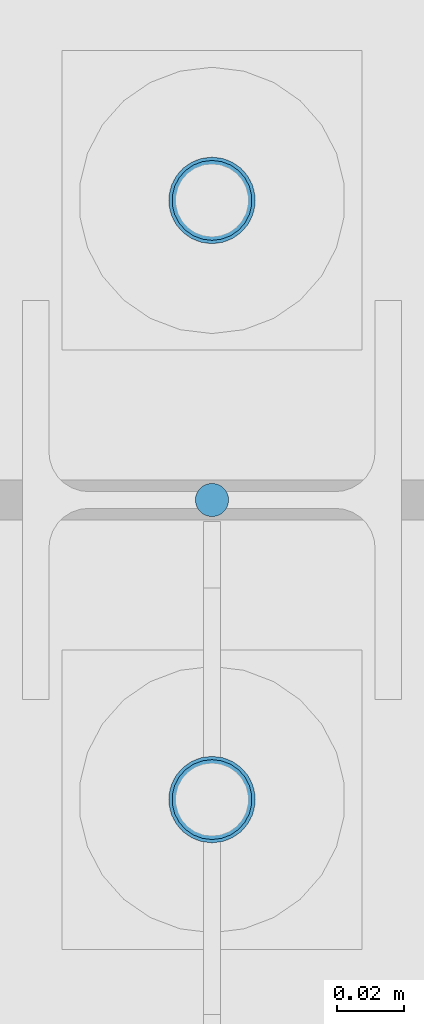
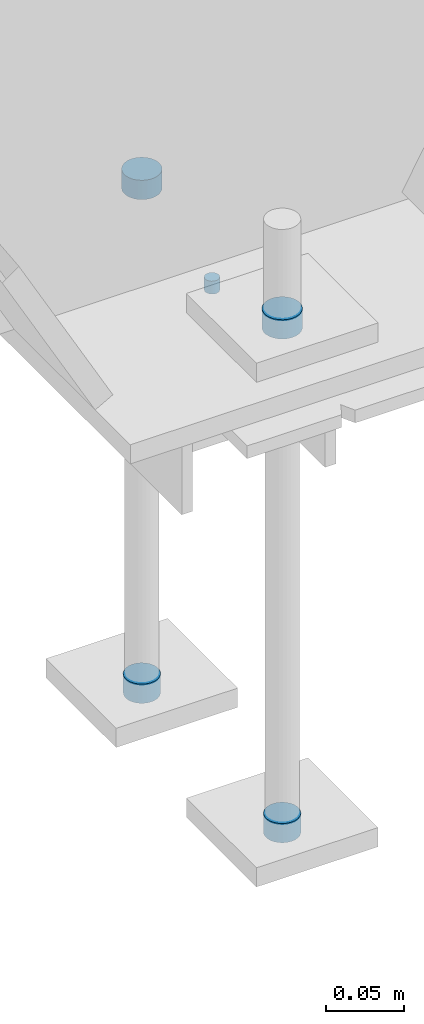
# One storey, part 106 of 123: 5 mechanical fasteners, 1 element without a shape of its own.
"""IFC2X3 building model written with IfcOpenShell, lengths in millimetres."""

from ifc_helpers import new_model, si_unit, frame, origin_with_axes, origin_2d_with_axis, place, context, subcontext, project, spatial, circle, extrude, source, transform, mapped, material, type_object, element, aggregate, save


model = new_model("IFC2X3")

# Units and contexts
model_context = context("Model", 3, precision=1e-05, world=origin_with_axes())
body_context = subcontext(model_context, "Body", "Model", "MODEL_VIEW")
ifc_project = project(units=[si_unit("LENGTHUNIT", "METRE", prefix="MILLI"), si_unit("AREAUNIT", "SQUARE_METRE"), si_unit("VOLUMEUNIT", "CUBIC_METRE"), si_unit("MASSUNIT", "GRAM", prefix="KILO"), si_unit("TIMEUNIT", "SECOND"), si_unit("PLANEANGLEUNIT", "RADIAN"), si_unit("SOLIDANGLEUNIT", "STERADIAN"), si_unit("THERMODYNAMICTEMPERATUREUNIT", "DEGREE_CELSIUS"), si_unit("LUMINOUSINTENSITYUNIT", "LUMEN")], contexts=[model_context])

# Site, building, storey
site_placement = place(None, origin_with_axes())
site = spatial("IfcSite", under=ifc_project, at=site_placement, Name="Undefined", CompositionType="ELEMENT")
building_placement = place(site_placement, origin_with_axes())
building = spatial("IfcBuilding", under=site, at=building_placement, Name="Undefined", CompositionType="ELEMENT")
storey_placement = place(building_placement, origin_with_axes())
storey = spatial("IfcBuildingStorey", under=building, at=storey_placement, Name="Undefined", CompositionType="ELEMENT", Elevation=0.0)

# Assembly, mechanical fasteners
assembly_placement = place(storey_placement, origin_with_axes())
assembly = element("IfcElementAssembly", 1, at=assembly_placement, inside=storey, Name="Steel Assembly", AssemblyPlace="NOTDEFINED", PredefinedType="RIGID_FRAME")
ifc_material = material(Name="6.8")
discrete_accessory_type = type_object("IfcDiscreteAccessoryType", Name="Bolt assembly")
shared_shape_1 = source(origin_with_axes(), body_context, "Body", "SweptSolid", [
    extrude(circle(Radius=13.0, at=origin_2d_with_axis()), frame((0.0, -15.0, 0.0), z_axis=(0.0, 1.0, 0.0), x_axis=(1.0, 0.0, 0.0)), (0.0, 0.0, 1.0), 15.1),
])
mechanical_fastener_1_placement = place(assembly_placement, frame((28880.0, -90.0028495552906, -235.0), z_axis=(1.0, 0.0, 0.0), x_axis=(0.0, -1.0, 0.0)))
mechanical_fastener_1 = element("IfcMechanicalFastener", 2, at=mechanical_fastener_1_placement, type_object=discrete_accessory_type, material=ifc_material, Name="Bolt assembly", NominalDiameter=24.0, NominalLength=15.0, context=body_context, shape_type="MappedRepresentation", body=[
    mapped(shared_shape_1, transform((0.0, 0.0, 0.0))),
])
mechanical_fastener_2_placement = place(assembly_placement, frame((28880.0, 89.9971504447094, -235.0), z_axis=(1.0, 0.0, 0.0), x_axis=(0.0, -1.0, 0.0)))
mechanical_fastener_2 = element("IfcMechanicalFastener", 3, at=mechanical_fastener_2_placement, type_object=discrete_accessory_type, material=ifc_material, Name="Bolt assembly", NominalDiameter=24.0, NominalLength=15.0, context=body_context, shape_type="MappedRepresentation", body=[
    mapped(shared_shape_1, transform((0.0, 0.0, 0.0))),
])
shared_shape_2 = source(origin_with_axes(), body_context, "Body", "SweptSolid", [
    extrude(circle(Radius=12.0, at=origin_2d_with_axis()), frame((0.0, -15.0, 0.0), z_axis=(0.0, 1.0, 0.0), x_axis=(1.0, 0.0, 0.0)), (0.0, 0.0, 1.0), 15.1),
])
mechanical_fastener_3_placement = place(assembly_placement, frame((28880.0, -90.0028495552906, -630.0), z_axis=(1.0, 0.0, 0.0), x_axis=(0.0, -1.0, 0.0)))
mechanical_fastener_3 = element("IfcMechanicalFastener", 4, at=mechanical_fastener_3_placement, type_object=discrete_accessory_type, material=ifc_material, Name="Bolt assembly", NominalDiameter=22.0, NominalLength=15.0, context=body_context, shape_type="MappedRepresentation", body=[
    mapped(shared_shape_2, transform((0.0, 0.0, 0.0))),
])
mechanical_fastener_4_placement = place(assembly_placement, frame((28880.0, 89.9971504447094, -630.0), z_axis=(1.0, 0.0, 0.0), x_axis=(0.0, -1.0, 0.0)))
mechanical_fastener_4 = element("IfcMechanicalFastener", 5, at=mechanical_fastener_4_placement, type_object=discrete_accessory_type, material=ifc_material, Name="Bolt assembly", NominalDiameter=22.0, NominalLength=15.0, context=body_context, shape_type="MappedRepresentation", body=[
    mapped(shared_shape_2, transform((0.0, 0.0, 0.0))),
])
shared_shape_3 = source(origin_with_axes(), body_context, "Body", "SweptSolid", [
    extrude(circle(Radius=5.0, at=origin_2d_with_axis()), frame((0.0, 0.0, 0.0), z_axis=(0.0, 1.0, 0.0), x_axis=(1.0, 0.0, 0.0)), (0.0, 0.0, 1.0), 10.1),
])
mechanical_fastener_5_placement = place(assembly_placement, frame((28880.0, 7.34107743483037e-08, -250.0), z_axis=(0.0, 1.0, 0.0), x_axis=(1.0, 0.0, 0.0)))
mechanical_fastener_5 = element("IfcMechanicalFastener", 6, at=mechanical_fastener_5_placement, type_object=discrete_accessory_type, material=ifc_material, Name="Bolt assembly", NominalDiameter=8.0, NominalLength=10.0, context=body_context, shape_type="MappedRepresentation", body=[
    mapped(shared_shape_3, transform((0.0, 0.0, 0.0))),
])
aggregate(assembly, [mechanical_fastener_1, mechanical_fastener_2, mechanical_fastener_3, mechanical_fastener_4, mechanical_fastener_5])

save(model, "model.ifc")
